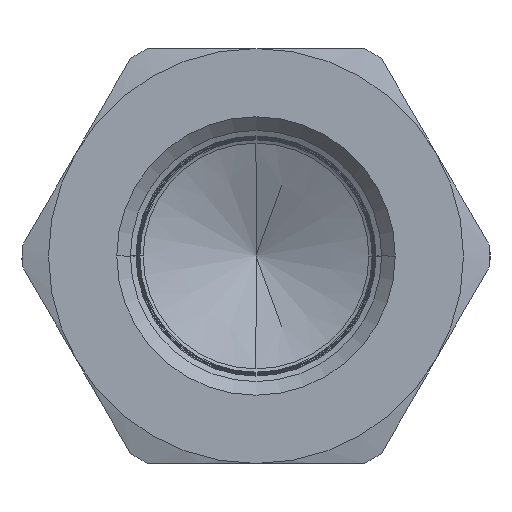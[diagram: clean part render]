
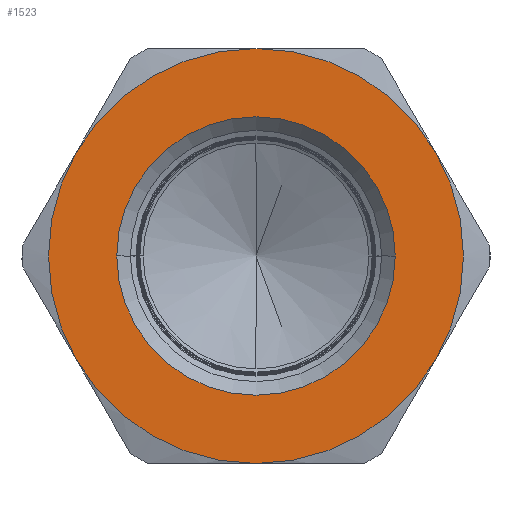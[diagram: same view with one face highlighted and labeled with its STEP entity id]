
A CAD part, left-side view. The second image highlights one B-rep face of the part: STEP entity #1523.
In plain terms, the highlighted planar face has unit normal (-1, 0, 0).
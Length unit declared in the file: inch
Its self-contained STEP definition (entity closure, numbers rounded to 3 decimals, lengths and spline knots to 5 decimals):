
#477 = VERTEX_POINT ( 'NONE', #5113 ) ;
#510 = VERTEX_POINT ( 'NONE', #5146 ) ;
#518 = VERTEX_POINT ( 'NONE', #5154 ) ;
#519 = VERTEX_POINT ( 'NONE', #5155 ) ;
#520 = VERTEX_POINT ( 'NONE', #5156 ) ;
#521 = VERTEX_POINT ( 'NONE', #5157 ) ;
#1413 = EDGE_CURVE ( 'NONE', #4205, #4204, #7051, .T. ) ;
#1414 = EDGE_CURVE ( 'NONE', #510, #477, #7053, .T. ) ;
#1415 = EDGE_CURVE ( 'NONE', #477, #518, #7055, .T. ) ;
#1416 = EDGE_CURVE ( 'NONE', #518, #519, #7059, .T. ) ;
#1417 = EDGE_CURVE ( 'NONE', #519, #520, #7061, .T. ) ;
#1418 = EDGE_CURVE ( 'NONE', #520, #521, #7063, .T. ) ;
#1419 = EDGE_CURVE ( 'NONE', #521, #510, #7065, .T. ) ;
#1523 = ADVANCED_FACE ( 'NONE', ( #7854, #7855 ), #7856, .F. ) ;
#1576 = ORIENTED_EDGE ( 'NONE', *, *, #1414, .T. ) ;
#1577 = ORIENTED_EDGE ( 'NONE', *, *, #1415, .T. ) ;
#1578 = ORIENTED_EDGE ( 'NONE', *, *, #1416, .T. ) ;
#1579 = ORIENTED_EDGE ( 'NONE', *, *, #1417, .T. ) ;
#1580 = ORIENTED_EDGE ( 'NONE', *, *, #1418, .T. ) ;
#1581 = ORIENTED_EDGE ( 'NONE', *, *, #1419, .T. ) ;
#1582 = ORIENTED_EDGE ( 'NONE', *, *, #1413, .F. ) ;
#1583 = ORIENTED_EDGE ( 'NONE', *, *, #3709, .F. ) ;
#3709 = EDGE_CURVE ( 'NONE', #4204, #4205, #13394, .T. ) ;
#4000 = EDGE_LOOP ( 'NONE', ( #1576, #1577, #1578, #1579, #1580, #1581 ) ) ;
#4002 = EDGE_LOOP ( 'NONE', ( #1582, #1583 ) ) ;
#4204 = VERTEX_POINT ( 'NONE', #14989 ) ;
#4205 = VERTEX_POINT ( 'NONE', #14990 ) ;
#5113 = CARTESIAN_POINT ( 'NONE',  ( 0., 0., -0.3125 ) ) ;
#5146 = CARTESIAN_POINT ( 'NONE',  ( 0., 0.27063, -0.15625 ) ) ;
#5154 = CARTESIAN_POINT ( 'NONE',  ( 0., -0.27063, -0.15625 ) ) ;
#5155 = CARTESIAN_POINT ( 'NONE',  ( 0., -0.27063, 0.15625 ) ) ;
#5156 = CARTESIAN_POINT ( 'NONE',  ( 0., 0., 0.3125 ) ) ;
#5157 = CARTESIAN_POINT ( 'NONE',  ( 0., 0.27063, 0.15625 ) ) ;
#7051 = CIRCLE ( 'NONE', #7056, 0.20972 ) ;
#7053 = CIRCLE ( 'NONE', #7058, 0.3125 ) ;
#7055 = CIRCLE ( 'NONE', #7060, 0.3125 ) ;
#7056 = AXIS2_PLACEMENT_3D ( 'NONE', #7281, #7282, #7283 ) ;
#7058 = AXIS2_PLACEMENT_3D ( 'NONE', #7284, #7285, #7286 ) ;
#7059 = CIRCLE ( 'NONE', #7062, 0.3125 ) ;
#7060 = AXIS2_PLACEMENT_3D ( 'NONE', #7287, #7288, #7289 ) ;
#7061 = CIRCLE ( 'NONE', #7064, 0.3125 ) ;
#7062 = AXIS2_PLACEMENT_3D ( 'NONE', #7290, #7291, #7292 ) ;
#7063 = CIRCLE ( 'NONE', #7066, 0.3125 ) ;
#7064 = AXIS2_PLACEMENT_3D ( 'NONE', #7293, #7294, #7295 ) ;
#7065 = CIRCLE ( 'NONE', #7068, 0.3125 ) ;
#7066 = AXIS2_PLACEMENT_3D ( 'NONE', #7297, #7298, #7299 ) ;
#7068 = AXIS2_PLACEMENT_3D ( 'NONE', #7302, #7303, #7304 ) ;
#7122 = AXIS2_PLACEMENT_3D ( 'NONE', #7851, #7858, #7859 ) ;
#7281 = CARTESIAN_POINT ( 'NONE',  ( 0., 0., 0. ) ) ;
#7282 = DIRECTION ( 'NONE',  ( -1., 0., 0. ) ) ;
#7283 = DIRECTION ( 'NONE',  ( 0., -1., 0. ) ) ;
#7284 = CARTESIAN_POINT ( 'NONE',  ( 0., 0., 0. ) ) ;
#7285 = DIRECTION ( 'NONE',  ( -1., 0., 0. ) ) ;
#7286 = DIRECTION ( 'NONE',  ( 0., 0., -1. ) ) ;
#7287 = CARTESIAN_POINT ( 'NONE',  ( 0., 0., 0. ) ) ;
#7288 = DIRECTION ( 'NONE',  ( -1., 0., 0. ) ) ;
#7289 = DIRECTION ( 'NONE',  ( 0., 0., -1. ) ) ;
#7290 = CARTESIAN_POINT ( 'NONE',  ( 0., 0., 0. ) ) ;
#7291 = DIRECTION ( 'NONE',  ( -1., 0., 0. ) ) ;
#7292 = DIRECTION ( 'NONE',  ( 0., 0., -1. ) ) ;
#7293 = CARTESIAN_POINT ( 'NONE',  ( 0., 0., 0. ) ) ;
#7294 = DIRECTION ( 'NONE',  ( -1., 0., 0. ) ) ;
#7295 = DIRECTION ( 'NONE',  ( 0., 0., -1. ) ) ;
#7297 = CARTESIAN_POINT ( 'NONE',  ( 0., 0., 0. ) ) ;
#7298 = DIRECTION ( 'NONE',  ( -1., 0., 0. ) ) ;
#7299 = DIRECTION ( 'NONE',  ( 0., 0., -1. ) ) ;
#7302 = CARTESIAN_POINT ( 'NONE',  ( 0., 0., 0. ) ) ;
#7303 = DIRECTION ( 'NONE',  ( -1., 0., 0. ) ) ;
#7304 = DIRECTION ( 'NONE',  ( 0., 0., -1. ) ) ;
#7851 = CARTESIAN_POINT ( 'NONE',  ( 0., 0.36084, 0. ) ) ;
#7854 = FACE_OUTER_BOUND ( 'NONE', #4000, .T. ) ;
#7855 = FACE_BOUND ( 'NONE', #4002, .T. ) ;
#7856 = PLANE ( 'NONE',  #7122 ) ;
#7858 = DIRECTION ( 'NONE',  ( 1., 0., 0. ) ) ;
#7859 = DIRECTION ( 'NONE',  ( 0., 0., -1. ) ) ;
#13394 = CIRCLE ( 'NONE', #13398, 0.20972 ) ;
#13398 = AXIS2_PLACEMENT_3D ( 'NONE', #14657, #14658, #14659 ) ;
#14657 = CARTESIAN_POINT ( 'NONE',  ( 0., 0., 0. ) ) ;
#14658 = DIRECTION ( 'NONE',  ( -1., 0., 0. ) ) ;
#14659 = DIRECTION ( 'NONE',  ( 0., -1., 0. ) ) ;
#14989 = CARTESIAN_POINT ( 'NONE',  ( 0., 0.20972, 0. ) ) ;
#14990 = CARTESIAN_POINT ( 'NONE',  ( 0., -0.20972, 0. ) ) ;
